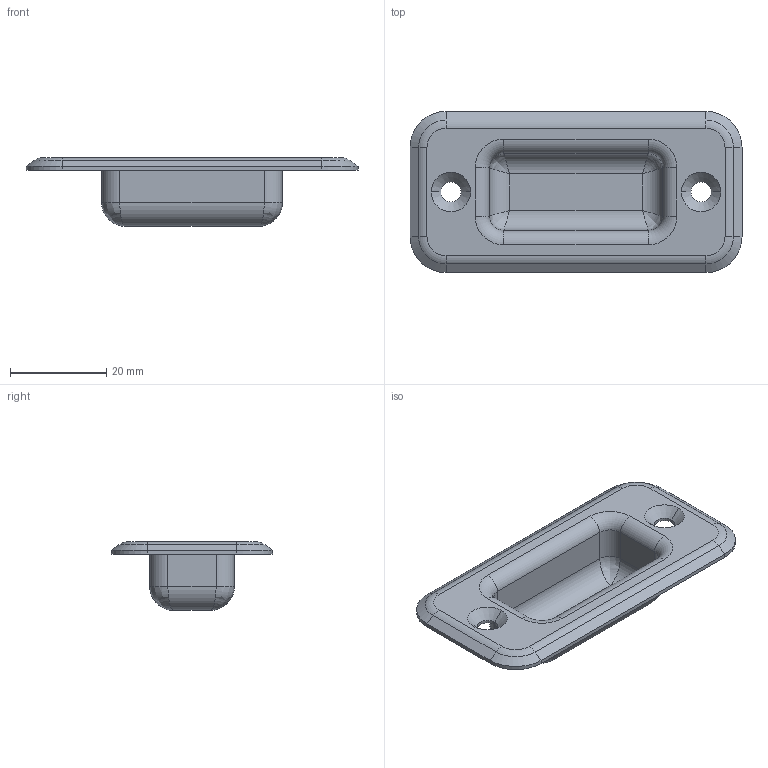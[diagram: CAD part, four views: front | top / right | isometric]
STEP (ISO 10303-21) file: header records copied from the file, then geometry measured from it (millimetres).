
FILE_DESCRIPTION (( 'STEP AP214' ), '1' );
FILE_NAME ('EL-905-B.STEP', '2016-01-18T15:26:35', ( '' ), ( '' ), 'SwSTEP 2.0', 'SolidWorks 2012', '' );
FILE_SCHEMA (( 'AUTOMOTIVE_DESIGN' ));
Length unit declared in the file: millimetre
Products named in the file (1): EL-905-B
Bounding box: 69 x 33.5 x 14.3 mm (x, y, z)
Volume: 2761.4 mm3; surface area: 7051.2 mm2
Topology: 1 solids, 1 shells, 119 faces, 264 edges, 144 vertices
Faces by surface type: cylinder 48, plane 31, cone 16, torus 16, bspline 8
Entity records: 3548 total; most frequent: CARTESIAN_POINT 944, DIRECTION 576, ORIENTED_EDGE 512, EDGE_CURVE 256, AXIS2_PLACEMENT_3D 224, VERTEX_POINT 144, EDGE_LOOP 128, LINE 128
